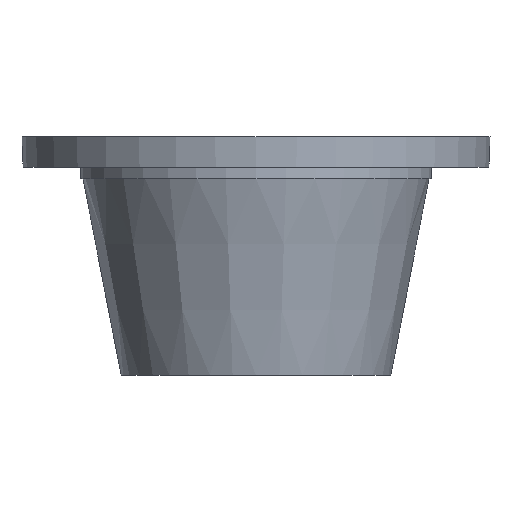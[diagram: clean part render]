
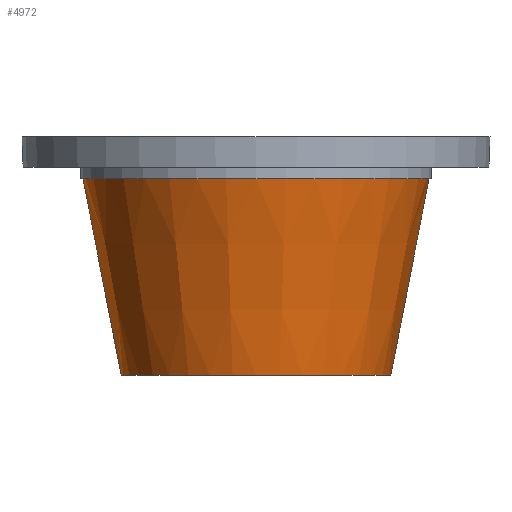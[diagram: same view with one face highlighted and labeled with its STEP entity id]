
A CAD part, left-side view. The second image highlights one B-rep face of the part: STEP entity #4972.
In plain terms, the highlighted conical face has half-angle 11 degrees and reference radius 131.522 mm.
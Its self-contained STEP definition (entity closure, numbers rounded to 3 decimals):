
#943=CARTESIAN_POINT('',(0.,0.,-37.));
#944=DIRECTION('',(0.,0.,1.));
#945=DIRECTION('',(0.,1.,0.));
#946=AXIS2_PLACEMENT_3D('',#943,#944,#945);
#953=CARTESIAN_POINT('',(0.,0.,-205.));
#954=DIRECTION('',(0.,0.,-1.));
#955=DIRECTION('',(0.,-1.,0.));
#956=AXIS2_PLACEMENT_3D('',#953,#954,#955);
#958=DIRECTION('',(0.,0.191,0.982));
#959=VECTOR('',#958,171.144);
#960=CARTESIAN_POINT('',(0.,115.194,-205.));
#961=LINE('',#960,#959);
#962=DIRECTION('',(0.,-0.191,0.982));
#963=VECTOR('',#962,171.144);
#964=CARTESIAN_POINT('',(0.,-115.194,-205.));
#965=LINE('',#964,#963);
#3282=CARTESIAN_POINT('',(0.,147.85,-37.));
#3283=CARTESIAN_POINT('',(0.,-147.85,-37.));
#3284=VERTEX_POINT('',#3282);
#3285=VERTEX_POINT('',#3283);
#4032=CARTESIAN_POINT('',(0.,115.194,-205.));
#4033=CARTESIAN_POINT('',(0.,-115.194,-205.));
#4034=VERTEX_POINT('',#4032);
#4035=VERTEX_POINT('',#4033);
#4958=CARTESIAN_POINT('',(0.,0.,-121.));
#4959=DIRECTION('',(0.,0.,1.));
#4960=DIRECTION('',(0.,1.,0.));
#4961=AXIS2_PLACEMENT_3D('',#4958,#4959,#4960);
#4962=CONICAL_SURFACE('',#4961,131.522,11.);
#4964=ORIENTED_EDGE('',*,*,#4963,.T.);
#4966=ORIENTED_EDGE('',*,*,#4965,.T.);
#4967=ORIENTED_EDGE('',*,*,#4951,.T.);
#4969=ORIENTED_EDGE('',*,*,#4968,.F.);
#4970=EDGE_LOOP('',(#4964,#4966,#4967,#4969));
#4971=FACE_OUTER_BOUND('',#4970,.F.);
#4972=ADVANCED_FACE('',(#4971),#4962,.T.);
#947=CIRCLE('',#946,147.85);
#957=CIRCLE('',#956,115.194);
#4951=EDGE_CURVE('',#3284,#3285,#947,.T.);
#4963=EDGE_CURVE('',#4035,#4034,#957,.T.);
#4965=EDGE_CURVE('',#4034,#3284,#961,.T.);
#4968=EDGE_CURVE('',#4035,#3285,#965,.T.);
